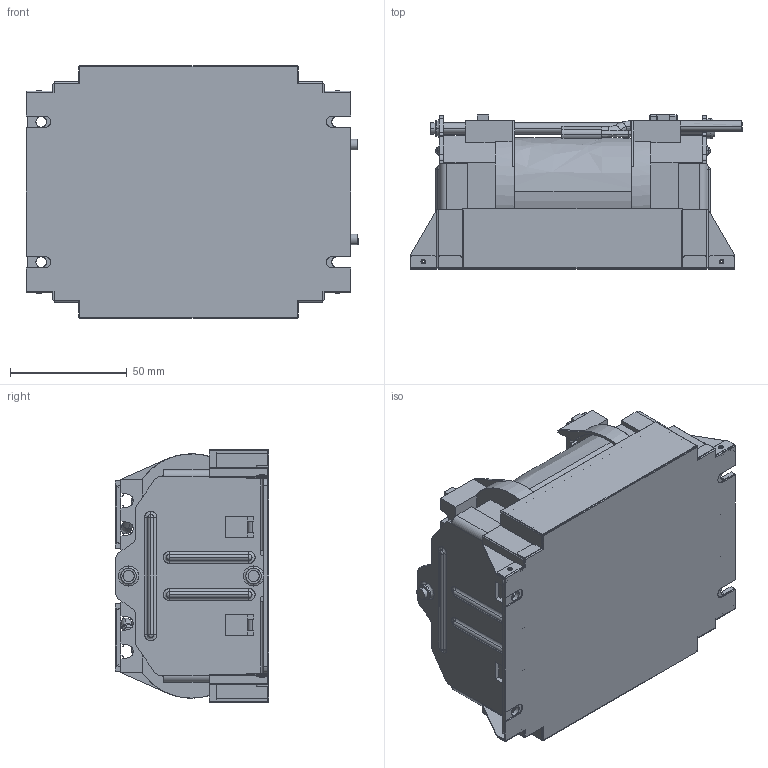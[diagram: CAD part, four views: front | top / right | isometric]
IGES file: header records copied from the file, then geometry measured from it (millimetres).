
Start section: SolidWorks IGES file using analytic representation for surfaces
Global section: file name: 34H\\10.106.230.1\R&D File\05_COMP\02_Mechanical\10_Others\PV_RT 81\网络用3D模型\半灌封模型\5KW_P_DCL\SP11229B-PM00SS20R(M-5KW_DCL-P).IGS; native system: SolidWorks 2009; preprocessor: SolidWorks 2009; author: Administrator; date: 120508.164930; units: millimetre
Bounding box: 142 x 65.75 x 108 mm (x, y, z)
Surface area: 194967.8 mm2 (no closed solid volume)
Topology: 0 solids, 0 shells, 1127 faces, 9060 edges, 9037 vertices
Faces by surface type: bspline 747, revolution 380
